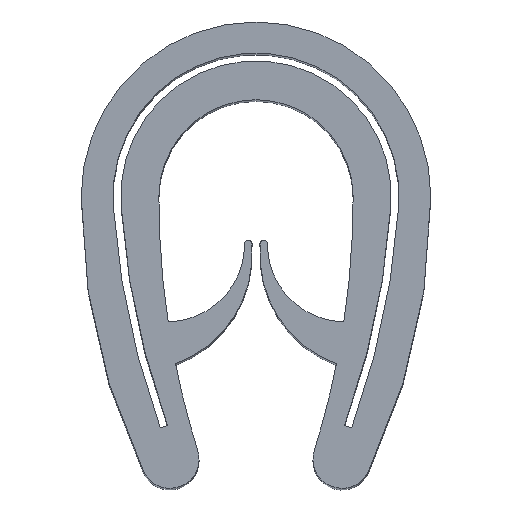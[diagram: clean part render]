
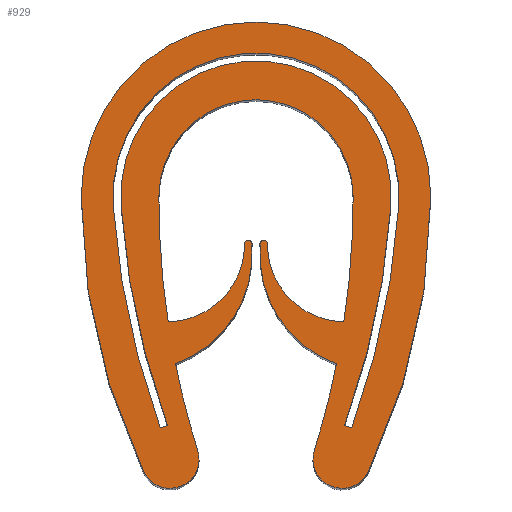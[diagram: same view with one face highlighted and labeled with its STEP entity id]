
A CAD part, top view. The second image highlights one B-rep face of the part: STEP entity #929.
In plain terms, the highlighted planar face has unit normal (0, 0, 1).
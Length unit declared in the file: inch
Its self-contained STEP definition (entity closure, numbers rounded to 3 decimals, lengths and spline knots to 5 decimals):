
#79=CARTESIAN_POINT('',(-0.08964,-0.23143,1.0));
#80=VERTEX_POINT('',#79);
#81=CARTESIAN_POINT('',(-0.09705,-0.23411,1.0));
#82=VERTEX_POINT('',#81);
#83=CARTESIAN_POINT('',(-0.08964,-0.23143,1.0));
#84=DIRECTION('',(-0.94,-0.341,0.0));
#85=VECTOR('',#84,0.00787);
#86=LINE('',#83,#85);
#87=EDGE_CURVE('',#80,#82,#86,.T.);
#119=CARTESIAN_POINT('',(-0.14461,-0.00937,1.0));
#120=VERTEX_POINT('',#119);
#121=CARTESIAN_POINT('',(0.68248,0.04827,1.0));
#122=DIRECTION('',(0.0,0.0,-1.0));
#123=DIRECTION('',(0.998,0.07,0.0));
#124=AXIS2_PLACEMENT_3D('',#121,#122,#123);
#125=CIRCLE('',#124,0.82909);
#126=EDGE_CURVE('',#82,#120,#125,.T.);
#152=CARTESIAN_POINT('',(0.14461,-0.00937,1.0));
#153=VERTEX_POINT('',#152);
#154=CARTESIAN_POINT('',(0.0,0.00071,1.0));
#155=DIRECTION('',(0.0,0.0,-1.));
#156=DIRECTION('',(-0.998,0.07,0.0));
#157=AXIS2_PLACEMENT_3D('',#154,#155,#156);
#158=CIRCLE('',#157,0.14496);
#159=EDGE_CURVE('',#120,#153,#158,.T.);
#185=CARTESIAN_POINT('',(0.09705,-0.23411,1.0));
#186=VERTEX_POINT('',#185);
#187=CARTESIAN_POINT('',(-0.68248,0.04827,1.0));
#188=DIRECTION('',(0.0,0.0,-1.0));
#189=DIRECTION('',(-0.94,0.341,0.0));
#190=AXIS2_PLACEMENT_3D('',#187,#188,#189);
#191=CIRCLE('',#190,0.82909);
#192=EDGE_CURVE('',#153,#186,#191,.T.);
#218=CARTESIAN_POINT('',(0.08964,-0.23143,1.0));
#219=VERTEX_POINT('',#218);
#220=CARTESIAN_POINT('',(0.09705,-0.23411,1.0));
#221=DIRECTION('',(-0.94,0.341,0.0));
#222=VECTOR('',#221,0.00787);
#223=LINE('',#220,#222);
#224=EDGE_CURVE('',#186,#219,#223,.T.);
#249=CARTESIAN_POINT('',(0.13675,-0.00882,1.0));
#250=VERTEX_POINT('',#249);
#251=CARTESIAN_POINT('',(-0.68248,0.04827,1.0));
#252=DIRECTION('',(0.0,0.0,1.));
#253=DIRECTION('',(0.94,-0.341,0.0));
#254=AXIS2_PLACEMENT_3D('',#251,#252,#253);
#255=CIRCLE('',#254,0.82122);
#256=EDGE_CURVE('',#219,#250,#255,.T.);
#282=CARTESIAN_POINT('',(-0.13675,-0.00882,1.0));
#283=VERTEX_POINT('',#282);
#284=CARTESIAN_POINT('',(0.0,0.00071,1.0));
#285=DIRECTION('',(0.0,0.0,1.0));
#286=DIRECTION('',(0.998,-0.07,0.0));
#287=AXIS2_PLACEMENT_3D('',#284,#285,#286);
#288=CIRCLE('',#287,0.13709);
#289=EDGE_CURVE('',#250,#283,#288,.T.);
#315=CARTESIAN_POINT('',(0.68248,0.04827,1.0));
#316=DIRECTION('',(0.0,0.0,1.0));
#317=DIRECTION('',(-0.998,-0.07,0.0));
#318=AXIS2_PLACEMENT_3D('',#315,#316,#317);
#319=CIRCLE('',#318,0.82122);
#320=EDGE_CURVE('',#283,#80,#319,.T.);
#339=CARTESIAN_POINT('',(0.08159,-0.16912,1.0));
#340=VERTEX_POINT('',#339);
#341=CARTESIAN_POINT('',(0.00426,-0.04947,1.0));
#342=VERTEX_POINT('',#341);
#343=CARTESIAN_POINT('',(0.12205,-0.05815,1.0));
#344=DIRECTION('',(0.0,0.0,-1.0));
#345=DIRECTION('',(-0.997,0.074,0.0));
#346=AXIS2_PLACEMENT_3D('',#343,#344,#345);
#347=CIRCLE('',#346,0.11811);
#348=EDGE_CURVE('',#340,#342,#347,.T.);
#381=CARTESIAN_POINT('',(0.01149,-0.04947,1.0));
#382=VERTEX_POINT('',#381);
#383=CARTESIAN_POINT('',(0.00787,-0.04791,1.0));
#384=DIRECTION('',(0.0,0.0,-1.));
#385=DIRECTION('',(0.919,-0.395,0.0));
#386=AXIS2_PLACEMENT_3D('',#383,#384,#385);
#387=CIRCLE('',#386,0.00394);
#388=EDGE_CURVE('',#342,#382,#387,.T.);
#414=CARTESIAN_POINT('',(0.08903,-0.12664,1.0));
#415=VERTEX_POINT('',#414);
#416=CARTESIAN_POINT('',(0.09022,-0.04791,1.0));
#417=DIRECTION('',(0.0,0.0,1.));
#418=DIRECTION('',(1.,0.02,0.0));
#419=AXIS2_PLACEMENT_3D('',#416,#417,#418);
#420=CIRCLE('',#419,0.07874);
#421=EDGE_CURVE('',#382,#415,#420,.T.);
#447=CARTESIAN_POINT('',(0.09843,0.0,1.0));
#448=VERTEX_POINT('',#447);
#449=CARTESIAN_POINT('',(-0.75947,0.0,1.0));
#450=DIRECTION('',(0.0,0.0,1.0));
#451=DIRECTION('',(-0.989,0.148,0.0));
#452=AXIS2_PLACEMENT_3D('',#449,#450,#451);
#453=CIRCLE('',#452,0.85789);
#454=EDGE_CURVE('',#415,#448,#453,.T.);
#480=CARTESIAN_POINT('',(-0.09843,0.0,1.0));
#481=VERTEX_POINT('',#480);
#482=CARTESIAN_POINT('',(0.0,0.0,1.0));
#483=DIRECTION('',(0.0,0.0,1.0));
#484=DIRECTION('',(-1.0,0.0,0.0));
#485=AXIS2_PLACEMENT_3D('',#482,#483,#484);
#486=CIRCLE('',#485,0.09843);
#487=EDGE_CURVE('',#448,#481,#486,.T.);
#513=CARTESIAN_POINT('',(-0.08903,-0.12664,1.0));
#514=VERTEX_POINT('',#513);
#515=CARTESIAN_POINT('',(0.75947,0.0,1.0));
#516=DIRECTION('',(0.0,0.0,1.0));
#517=DIRECTION('',(1.0,0.0,0.0));
#518=AXIS2_PLACEMENT_3D('',#515,#516,#517);
#519=CIRCLE('',#518,0.85789);
#520=EDGE_CURVE('',#481,#514,#519,.T.);
#546=CARTESIAN_POINT('',(-0.01149,-0.04947,1.0));
#547=VERTEX_POINT('',#546);
#548=CARTESIAN_POINT('',(-0.09022,-0.04791,1.0));
#549=DIRECTION('',(0.0,0.0,1.));
#550=DIRECTION('',(-0.015,1.,0.0));
#551=AXIS2_PLACEMENT_3D('',#548,#549,#550);
#552=CIRCLE('',#551,0.07874);
#553=EDGE_CURVE('',#514,#547,#552,.T.);
#579=CARTESIAN_POINT('',(-0.00426,-0.04947,1.0));
#580=VERTEX_POINT('',#579);
#581=CARTESIAN_POINT('',(-0.00787,-0.04791,1.0));
#582=DIRECTION('',(0.0,0.0,-1.));
#583=DIRECTION('',(0.919,-0.395,0.0));
#584=AXIS2_PLACEMENT_3D('',#581,#582,#583);
#585=CIRCLE('',#584,0.00394);
#586=EDGE_CURVE('',#547,#580,#585,.T.);
#612=CARTESIAN_POINT('',(-0.08159,-0.16912,1.0));
#613=VERTEX_POINT('',#612);
#614=CARTESIAN_POINT('',(-0.12205,-0.05815,1.0));
#615=DIRECTION('',(0.0,0.0,-1.0));
#616=DIRECTION('',(0.343,-0.94,0.0));
#617=AXIS2_PLACEMENT_3D('',#614,#615,#616);
#618=CIRCLE('',#617,0.11811);
#619=EDGE_CURVE('',#580,#613,#618,.T.);
#645=CARTESIAN_POINT('',(-0.05906,-0.25691,1.0));
#646=VERTEX_POINT('',#645);
#647=CARTESIAN_POINT('',(0.75947,0.0,1.0));
#648=DIRECTION('',(0.0,0.0,1.0));
#649=DIRECTION('',(0.98,0.197,0.0));
#650=AXIS2_PLACEMENT_3D('',#647,#648,#649);
#651=CIRCLE('',#650,0.85789);
#652=EDGE_CURVE('',#613,#646,#651,.T.);
#678=CARTESIAN_POINT('',(-0.11385,-0.27851,1.0));
#679=VERTEX_POINT('',#678);
#680=CARTESIAN_POINT('',(-0.08723,-0.26575,1.0));
#681=DIRECTION('',(0.0,0.0,-1.0));
#682=DIRECTION('',(-0.902,-0.432,0.0));
#683=AXIS2_PLACEMENT_3D('',#680,#681,#682);
#684=CIRCLE('',#683,0.02953);
#685=EDGE_CURVE('',#646,#679,#684,.T.);
#711=CARTESIAN_POINT('',(-0.17717,0.0,1.0));
#712=VERTEX_POINT('',#711);
#713=CARTESIAN_POINT('',(0.46709,0.0,1.0));
#714=DIRECTION('',(0.0,0.0,-1.0));
#715=DIRECTION('',(-1.0,0.0,0.0));
#716=AXIS2_PLACEMENT_3D('',#713,#714,#715);
#717=CIRCLE('',#716,0.64425);
#718=EDGE_CURVE('',#679,#712,#717,.T.);
#744=CARTESIAN_POINT('',(0.17717,0.0,1.0));
#745=VERTEX_POINT('',#744);
#746=CARTESIAN_POINT('',(0.0,0.0,1.0));
#747=DIRECTION('',(0.0,0.0,-1.0));
#748=DIRECTION('',(1.0,0.0,0.0));
#749=AXIS2_PLACEMENT_3D('',#746,#747,#748);
#750=CIRCLE('',#749,0.17717);
#751=EDGE_CURVE('',#712,#745,#750,.T.);
#777=CARTESIAN_POINT('',(0.11385,-0.27851,1.0));
#778=VERTEX_POINT('',#777);
#779=CARTESIAN_POINT('',(-0.46709,0.0,1.0));
#780=DIRECTION('',(0.0,0.0,-1.0));
#781=DIRECTION('',(0.902,-0.432,0.0));
#782=AXIS2_PLACEMENT_3D('',#779,#780,#781);
#783=CIRCLE('',#782,0.64425);
#784=EDGE_CURVE('',#745,#778,#783,.T.);
#810=CARTESIAN_POINT('',(0.05906,-0.25691,1.0));
#811=VERTEX_POINT('',#810);
#812=CARTESIAN_POINT('',(0.08723,-0.26575,1.0));
#813=DIRECTION('',(0.0,0.0,-1.0));
#814=DIRECTION('',(-0.954,0.299,0.0));
#815=AXIS2_PLACEMENT_3D('',#812,#813,#814);
#816=CIRCLE('',#815,0.02953);
#817=EDGE_CURVE('',#778,#811,#816,.T.);
#843=CARTESIAN_POINT('',(-0.75947,0.0,1.0));
#844=DIRECTION('',(0.0,0.0,1.));
#845=DIRECTION('',(-0.954,0.299,0.0));
#846=AXIS2_PLACEMENT_3D('',#843,#844,#845);
#847=CIRCLE('',#846,0.85789);
#848=EDGE_CURVE('',#811,#340,#847,.T.);
#896=CARTESIAN_POINT('',(0.,-0.06568,1.0));
#897=DIRECTION('',(0.0,0.0,1.0));
#898=DIRECTION('',(1.0,0.0,0.0));
#899=AXIS2_PLACEMENT_3D('',#896,#897,#898);
#900=PLANE('',#899);
#901=ORIENTED_EDGE('',*,*,#348,.F.);
#902=ORIENTED_EDGE('',*,*,#848,.F.);
#903=ORIENTED_EDGE('',*,*,#817,.F.);
#904=ORIENTED_EDGE('',*,*,#784,.F.);
#905=ORIENTED_EDGE('',*,*,#751,.F.);
#906=ORIENTED_EDGE('',*,*,#718,.F.);
#907=ORIENTED_EDGE('',*,*,#685,.F.);
#908=ORIENTED_EDGE('',*,*,#652,.F.);
#909=ORIENTED_EDGE('',*,*,#619,.F.);
#910=ORIENTED_EDGE('',*,*,#586,.F.);
#911=ORIENTED_EDGE('',*,*,#553,.F.);
#912=ORIENTED_EDGE('',*,*,#520,.F.);
#913=ORIENTED_EDGE('',*,*,#487,.F.);
#914=ORIENTED_EDGE('',*,*,#454,.F.);
#915=ORIENTED_EDGE('',*,*,#421,.F.);
#916=ORIENTED_EDGE('',*,*,#388,.F.);
#917=EDGE_LOOP('',(#901,#902,#903,#904,#905,#906,#907,#908,#909,#910,#911,#912,#913,#914,#915,#916));
#918=FACE_OUTER_BOUND('',#917,.T.);
#919=ORIENTED_EDGE('',*,*,#87,.T.);
#920=ORIENTED_EDGE('',*,*,#126,.T.);
#921=ORIENTED_EDGE('',*,*,#159,.T.);
#922=ORIENTED_EDGE('',*,*,#192,.T.);
#923=ORIENTED_EDGE('',*,*,#224,.T.);
#924=ORIENTED_EDGE('',*,*,#256,.T.);
#925=ORIENTED_EDGE('',*,*,#289,.T.);
#926=ORIENTED_EDGE('',*,*,#320,.T.);
#927=EDGE_LOOP('',(#919,#920,#921,#922,#923,#924,#925,#926));
#928=FACE_BOUND('',#927,.T.);
#929=ADVANCED_FACE('',(#918,#928),#900,.T.);
